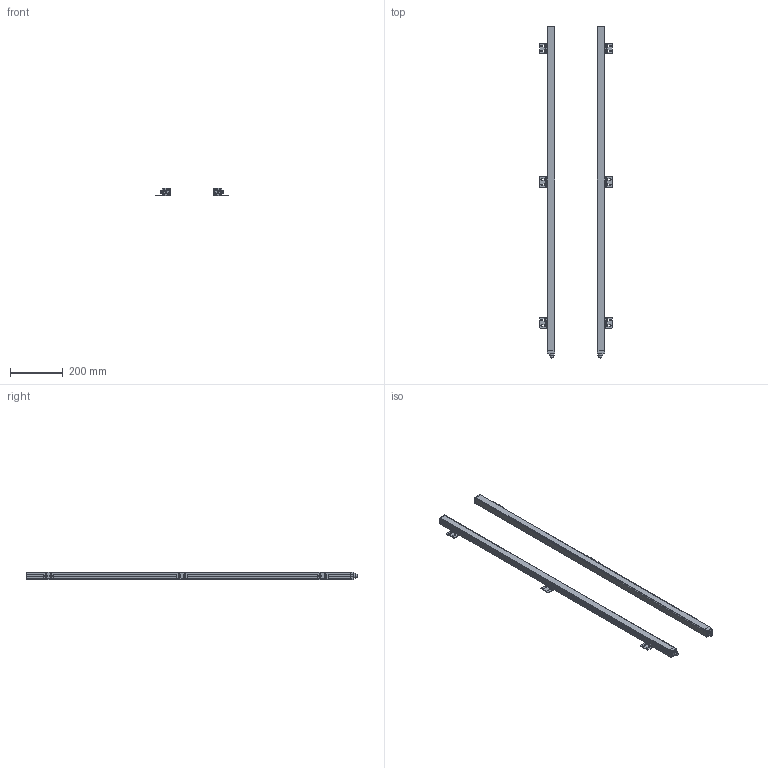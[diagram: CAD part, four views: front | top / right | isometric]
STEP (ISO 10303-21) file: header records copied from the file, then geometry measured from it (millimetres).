
FILE_DESCRIPTION( ( 'STEP AP203' ), '1' );
FILE_NAME( 'p:/temp/worker_1/2208_3360/app_63_02015061609395924561029192d056f_00_00_00_000/STEP/OY008S_2_03.stp', ' ', ( ' ' ), ( ' ' ), 'PSStep 15.0.47', 'PARTsolutions', ' ' );
FILE_SCHEMA( ( 'CONFIG_CONTROL_DESIGN' ) );
Length unit declared in the file: millimetre
Products named in the file (3): OY008S; _OY008S_part1; _OY001S_part2
Assembly tree (8 placements, depth 2):
  OY008S
    _OY008S_part1  x2
    _OY001S_part2  x6
Bounding box: 276 x 1263 x 29.34 mm (x, y, z)
Volume: 2037062.6 mm3; surface area: 355915.2 mm2
Topology: 8 solids, 8 shells, 922 faces, 2468 edges, 1626 vertices
Faces by surface type: plane 532, cylinder 368, cone 14, torus 8
Full cylindrical faces by diameter (mm): 2.5 x8, 3 x8, 5 x44, 8.9 x12, 12 x2, 18 x2
Entity records: 10322 total; most frequent: CARTESIAN_POINT 1836, DIRECTION 1792, ORIENTED_EDGE 1690, EDGE_CURVE 845, AXIS2_PLACEMENT_3D 621, VERTEX_POINT 577, LINE 550, VECTOR 550
